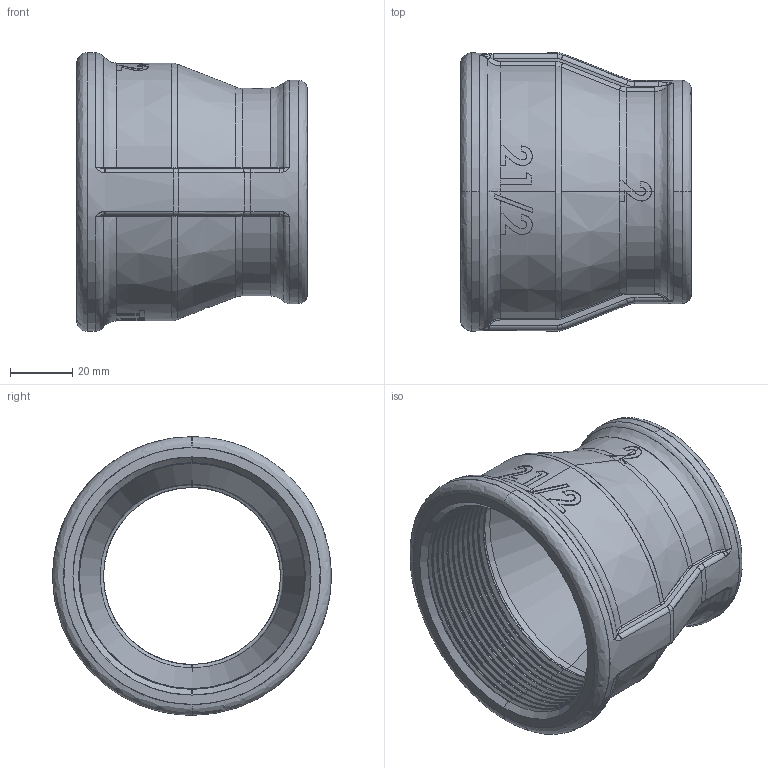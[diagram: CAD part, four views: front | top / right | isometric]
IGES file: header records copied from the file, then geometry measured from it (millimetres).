
Start section: SolidWorks IGES file using analytic representation for surfaces
Global section: file name: C:\Users\Joel Rosa\Desktop\Tubulação\12-32-OK\12-32-051.IGS; native system: SolidWorks 2011; preprocessor: SolidWorks 2011; author: Joel Rosa; date: 121208.231229; units: millimetre
Bounding box: 74 x 89.3 x 89.3 mm (x, y, z)
Surface area: 44689.2 mm2 (no closed solid volume)
Topology: 0 solids, 0 shells, 483 faces, 4188 edges, 4184 vertices
Faces by surface type: bspline 337, revolution 146
